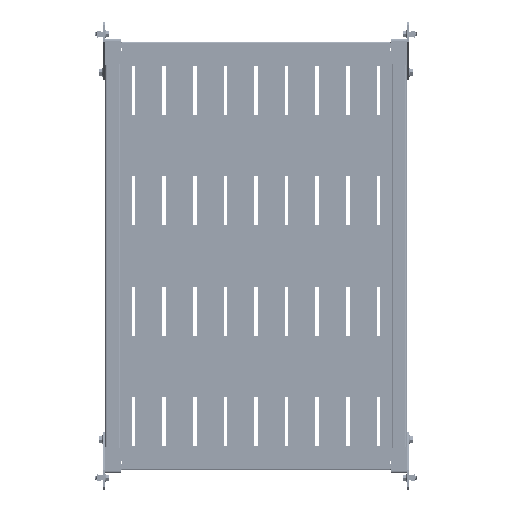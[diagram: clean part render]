
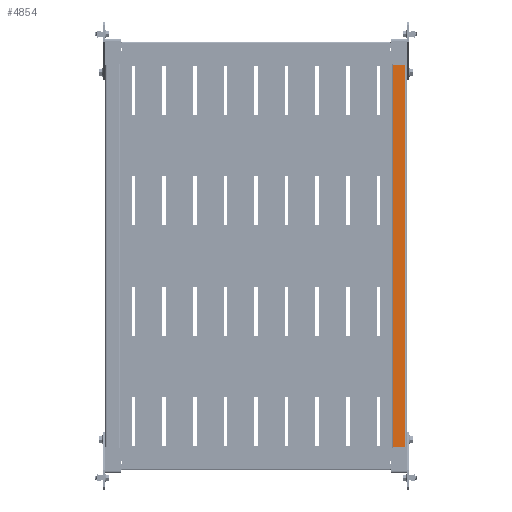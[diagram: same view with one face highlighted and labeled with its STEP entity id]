
A CAD part, front view. The second image highlights one B-rep face of the part: STEP entity #4854.
In plain terms, the highlighted planar face has unit normal (0, -1, 0).
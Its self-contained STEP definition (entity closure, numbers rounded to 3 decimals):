
#598 = VECTOR ( 'NONE', #24537, 1000. ) ;
#1984 = DIRECTION ( 'NONE',  ( 0., 0., -1. ) ) ;
#4854 = ADVANCED_FACE ( 'NONE', ( #30683 ), #24386, .F. ) ;
#13364 = CARTESIAN_POINT ( 'NONE',  ( 348.4, -45., -224.1 ) ) ;
#15597 = CARTESIAN_POINT ( 'NONE',  ( 348.4, -45., -224.1 ) ) ;
#19657 = LINE ( 'NONE', #13364, #67742 ) ;
#19755 = ORIENTED_EDGE ( 'NONE', *, *, #47877, .T. ) ;
#22618 = CARTESIAN_POINT ( 'NONE',  ( -348.4, -45., -243.9 ) ) ;
#23299 = CARTESIAN_POINT ( 'NONE',  ( 348.4, -45., 0. ) ) ;
#24386 = PLANE ( 'NONE',  #53912 ) ;
#24537 = DIRECTION ( 'NONE',  ( 0., 0., 1. ) ) ;
#30173 = VERTEX_POINT ( 'NONE', #59477 ) ;
#30683 = FACE_OUTER_BOUND ( 'NONE', #41060, .T. ) ;
#32821 = EDGE_CURVE ( 'NONE', #71965, #57083, #19657, .T. ) ;
#41060 = EDGE_LOOP ( 'NONE', ( #54745, #19755, #79535, #79851 ) ) ;
#42719 = EDGE_CURVE ( 'NONE', #30173, #71965, #48389, .T. ) ;
#46650 = LINE ( 'NONE', #72103, #68754 ) ;
#47877 = EDGE_CURVE ( 'NONE', #57083, #61468, #54662, .T. ) ;
#48389 = LINE ( 'NONE', #23299, #598 ) ;
#49870 = CARTESIAN_POINT ( 'NONE',  ( 0., -45., 0. ) ) ;
#53912 = AXIS2_PLACEMENT_3D ( 'NONE', #49870, #75341, #69073 ) ;
#54150 = DIRECTION ( 'NONE',  ( -1., 0., 0. ) ) ;
#54662 = LINE ( 'NONE', #72622, #78157 ) ;
#54745 = ORIENTED_EDGE ( 'NONE', *, *, #32821, .T. ) ;
#57083 = VERTEX_POINT ( 'NONE', #71972 ) ;
#59477 = CARTESIAN_POINT ( 'NONE',  ( 348.4, -45., -243.9 ) ) ;
#61468 = VERTEX_POINT ( 'NONE', #22618 ) ;
#64342 = DIRECTION ( 'NONE',  ( -1., 0., 0. ) ) ;
#67742 = VECTOR ( 'NONE', #64342, 1000. ) ;
#68754 = VECTOR ( 'NONE', #54150, 1000. ) ;
#69073 = DIRECTION ( 'NONE',  ( 0., 0., 1. ) ) ;
#71631 = EDGE_CURVE ( 'NONE', #30173, #61468, #46650, .T. ) ;
#71965 = VERTEX_POINT ( 'NONE', #15597 ) ;
#71972 = CARTESIAN_POINT ( 'NONE',  ( -348.4, -45., -224.1 ) ) ;
#72103 = CARTESIAN_POINT ( 'NONE',  ( -348.4, -45., -243.9 ) ) ;
#72622 = CARTESIAN_POINT ( 'NONE',  ( -348.4, -45., 0. ) ) ;
#75341 = DIRECTION ( 'NONE',  ( 0., 1., 0. ) ) ;
#78157 = VECTOR ( 'NONE', #1984, 1000. ) ;
#79535 = ORIENTED_EDGE ( 'NONE', *, *, #71631, .F. ) ;
#79851 = ORIENTED_EDGE ( 'NONE', *, *, #42719, .T. ) ;
